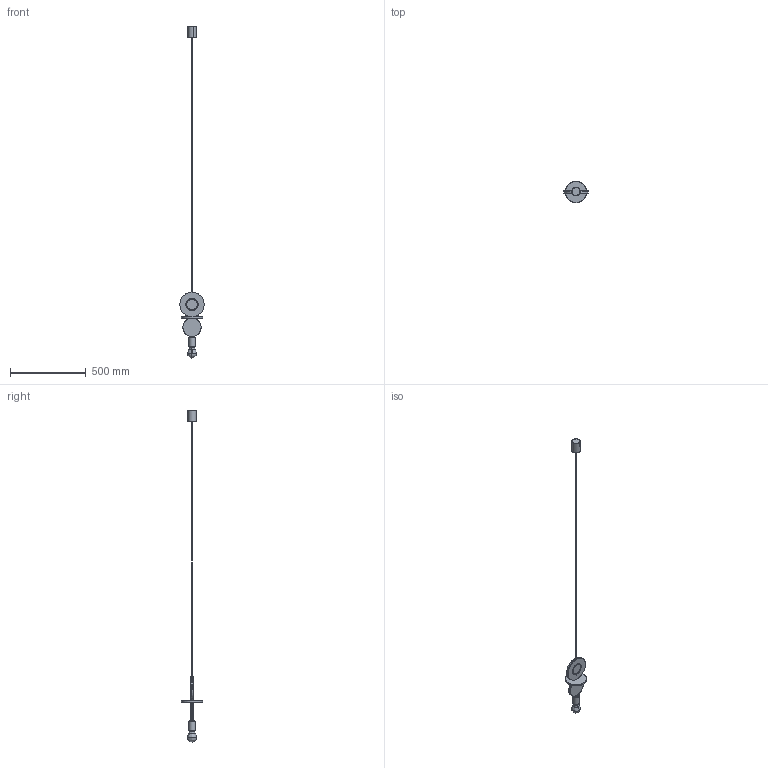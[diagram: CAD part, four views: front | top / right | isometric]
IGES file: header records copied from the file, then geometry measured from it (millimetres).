
Start section: SolidWorks IGES file using analytic representation for surfaces
Global section: file name: Z:\PRODUKT\DESIGN\DROPS WOOD\DROPS WOOD PM\DROPS WOOD E PM\DROPS WOOD E PM.IGS; native system: SolidWorks 2023; preprocessor: SolidWorks 2023; author: anna.bielnik; date: 231127.113901; units: millimetre
Bounding box: 160 x 140 x 2185.15 mm (x, y, z)
Surface area: 295159.9 mm2 (no closed solid volume)
Topology: 0 solids, 0 shells, 136 faces, 3458 edges, 3456 vertices
Faces by surface type: bspline 74, revolution 62
